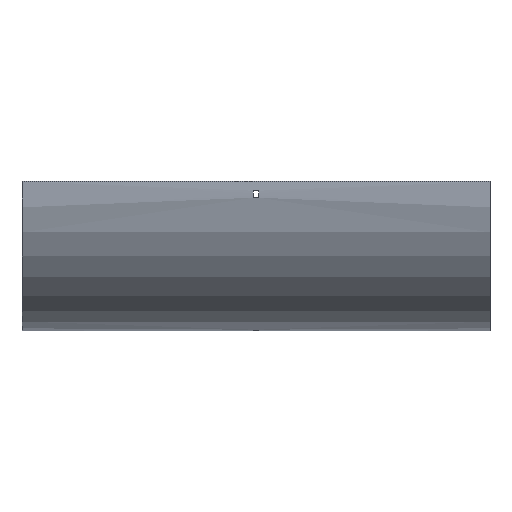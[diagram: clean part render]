
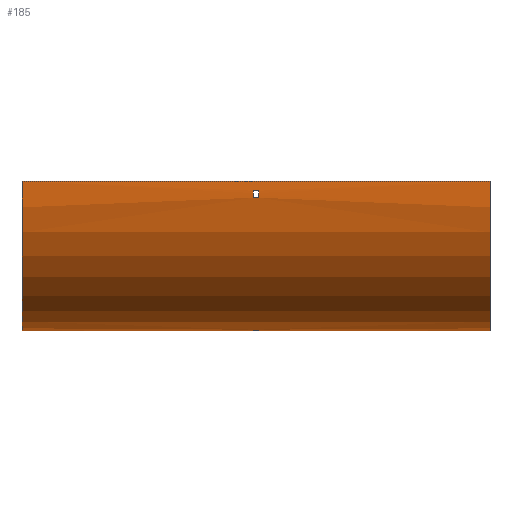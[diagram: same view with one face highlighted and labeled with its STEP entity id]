
A CAD part, front view. The second image highlights one B-rep face of the part: STEP entity #185.
In plain terms, the highlighted cylindrical face has radius 192.5 mm (diameter 385 mm), a partial arc.
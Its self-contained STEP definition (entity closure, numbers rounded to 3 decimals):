
#11 = ORIENTED_EDGE ( 'NONE', *, *, #113, .F. ) ;
#25 = AXIS2_PLACEMENT_3D ( 'NONE', #1170, #459, #1282 ) ;
#34 = CARTESIAN_POINT ( 'NONE',  ( -3.25, -91.351, -21. ) ) ;
#36 = CARTESIAN_POINT ( 'NONE',  ( 302., 88., -192.126 ) ) ;
#38 = EDGE_CURVE ( 'NONE', #781, #621, #904, .T. ) ;
#42 = EDGE_CURVE ( 'NONE', #1136, #1052, #685, .T. ) ;
#52 = DIRECTION ( 'NONE',  ( -1., 0., 0. ) ) ;
#59 = EDGE_CURVE ( 'NONE', #516, #1400, #571, .T. ) ;
#65 = FACE_BOUND ( 'NONE', #810, .T. ) ;
#113 = EDGE_CURVE ( 'NONE', #418, #260, #823, .T. ) ;
#124 = DIRECTION ( 'NONE',  ( -1., 0., 0. ) ) ;
#143 = CARTESIAN_POINT ( 'NONE',  ( 3.25, 79., -191.351 ) ) ;
#152 = AXIS2_PLACEMENT_3D ( 'NONE', #444, #561, #291 ) ;
#177 = CIRCLE ( 'NONE', #25, 192.5 ) ;
#185 = ADVANCED_FACE ( 'NONE', ( #1232, #861, #65 ), #1117, .T. ) ;
#197 = EDGE_CURVE ( 'NONE', #508, #402, #483, .T. ) ;
#240 = CARTESIAN_POINT ( 'NONE',  ( 302., -91.351, -21. ) ) ;
#260 = VERTEX_POINT ( 'NONE', #329 ) ;
#291 = DIRECTION ( 'NONE',  ( 0., 0., 1. ) ) ;
#326 = AXIS2_PLACEMENT_3D ( 'NONE', #1337, #862, #446 ) ;
#329 = CARTESIAN_POINT ( 'NONE',  ( -3.25, 79., -191.351 ) ) ;
#349 = EDGE_LOOP ( 'NONE', ( #887, #559, #745, #447 ) ) ;
#355 = DIRECTION ( 'NONE',  ( -1., 0., 0. ) ) ;
#395 = CARTESIAN_POINT ( 'NONE',  ( 3.25, 100., 0. ) ) ;
#402 = VERTEX_POINT ( 'NONE', #528 ) ;
#410 = CIRCLE ( 'NONE', #326, 192.5 ) ;
#418 = VERTEX_POINT ( 'NONE', #143 ) ;
#436 = CARTESIAN_POINT ( 'NONE',  ( 302., 100., -192.5 ) ) ;
#444 = CARTESIAN_POINT ( 'NONE',  ( -3.25, 100., 0. ) ) ;
#446 = DIRECTION ( 'NONE',  ( 0., 1., 0. ) ) ;
#447 = ORIENTED_EDGE ( 'NONE', *, *, #38, .T. ) ;
#459 = DIRECTION ( 'NONE',  ( 1., 0., 0. ) ) ;
#483 = LINE ( 'NONE', #1247, #962 ) ;
#508 = VERTEX_POINT ( 'NONE', #1334 ) ;
#516 = VERTEX_POINT ( 'NONE', #34 ) ;
#528 = CARTESIAN_POINT ( 'NONE',  ( -302., -92.5, 0. ) ) ;
#559 = ORIENTED_EDGE ( 'NONE', *, *, #59, .T. ) ;
#561 = DIRECTION ( 'NONE',  ( -1., 0., 0. ) ) ;
#571 = CIRCLE ( 'NONE', #152, 192.5 ) ;
#610 = ORIENTED_EDGE ( 'NONE', *, *, #1106, .F. ) ;
#621 = VERTEX_POINT ( 'NONE', #625 ) ;
#625 = CARTESIAN_POINT ( 'NONE',  ( 3.25, -91.351, -21. ) ) ;
#637 = DIRECTION ( 'NONE',  ( 0., 0., 1. ) ) ;
#673 = EDGE_CURVE ( 'NONE', #1400, #781, #1554, .T. ) ;
#684 = EDGE_CURVE ( 'NONE', #1052, #418, #829, .T. ) ;
#685 = LINE ( 'NONE', #36, #1470 ) ;
#699 = CARTESIAN_POINT ( 'NONE',  ( 302., 100., -192.5 ) ) ;
#704 = EDGE_CURVE ( 'NONE', #621, #516, #1034, .T. ) ;
#724 = CARTESIAN_POINT ( 'NONE',  ( -302., 100., -192.5 ) ) ;
#745 = ORIENTED_EDGE ( 'NONE', *, *, #673, .T. ) ;
#774 = CIRCLE ( 'NONE', #935, 192.5 ) ;
#781 = VERTEX_POINT ( 'NONE', #804 ) ;
#804 = CARTESIAN_POINT ( 'NONE',  ( 3.25, -92.126, -12. ) ) ;
#810 = EDGE_LOOP ( 'NONE', ( #1552, #11, #1677, #1401 ) ) ;
#817 = DIRECTION ( 'NONE',  ( 1., 0., 0. ) ) ;
#823 = LINE ( 'NONE', #1597, #826 ) ;
#826 = VECTOR ( 'NONE', #1217, 1000. ) ;
#829 = CIRCLE ( 'NONE', #1354, 192.5 ) ;
#854 = VECTOR ( 'NONE', #1388, 1000. ) ;
#861 = FACE_BOUND ( 'NONE', #349, .T. ) ;
#862 = DIRECTION ( 'NONE',  ( 1., 0., 0. ) ) ;
#887 = ORIENTED_EDGE ( 'NONE', *, *, #704, .T. ) ;
#904 = CIRCLE ( 'NONE', #1580, 192.5 ) ;
#935 = AXIS2_PLACEMENT_3D ( 'NONE', #1210, #971, #1368 ) ;
#936 = CARTESIAN_POINT ( 'NONE',  ( -3.25, 88., -192.126 ) ) ;
#962 = VECTOR ( 'NONE', #1624, 1000. ) ;
#971 = DIRECTION ( 'NONE',  ( 1., 0., 0. ) ) ;
#1034 = LINE ( 'NONE', #240, #1203 ) ;
#1035 = ORIENTED_EDGE ( 'NONE', *, *, #197, .T. ) ;
#1052 = VERTEX_POINT ( 'NONE', #1619 ) ;
#1074 = ORIENTED_EDGE ( 'NONE', *, *, #1564, .F. ) ;
#1085 = EDGE_CURVE ( 'NONE', #260, #1136, #410, .T. ) ;
#1090 = EDGE_CURVE ( 'NONE', #402, #1614, #774, .T. ) ;
#1093 = LINE ( 'NONE', #436, #1349 ) ;
#1106 = EDGE_CURVE ( 'NONE', #1688, #1614, #1093, .T. ) ;
#1117 = CYLINDRICAL_SURFACE ( 'NONE', #1297, 192.5 ) ;
#1128 = EDGE_LOOP ( 'NONE', ( #1330, #610, #1074, #1035 ) ) ;
#1136 = VERTEX_POINT ( 'NONE', #936 ) ;
#1170 = CARTESIAN_POINT ( 'NONE',  ( 302., 100., 0. ) ) ;
#1199 = DIRECTION ( 'NONE',  ( 1., 0., 0. ) ) ;
#1203 = VECTOR ( 'NONE', #124, 1000. ) ;
#1210 = CARTESIAN_POINT ( 'NONE',  ( -302., 100., 0. ) ) ;
#1217 = DIRECTION ( 'NONE',  ( -1., 0., 0. ) ) ;
#1232 = FACE_OUTER_BOUND ( 'NONE', #1128, .T. ) ;
#1247 = CARTESIAN_POINT ( 'NONE',  ( 302., -92.5, 0. ) ) ;
#1260 = CARTESIAN_POINT ( 'NONE',  ( 302., 100., 0. ) ) ;
#1282 = DIRECTION ( 'NONE',  ( 0., 0., -1. ) ) ;
#1297 = AXIS2_PLACEMENT_3D ( 'NONE', #1260, #1365, #1511 ) ;
#1318 = DIRECTION ( 'NONE',  ( 0., 0., -1. ) ) ;
#1330 = ORIENTED_EDGE ( 'NONE', *, *, #1090, .T. ) ;
#1334 = CARTESIAN_POINT ( 'NONE',  ( 302., -92.5, 0. ) ) ;
#1337 = CARTESIAN_POINT ( 'NONE',  ( -3.25, 100., 0. ) ) ;
#1349 = VECTOR ( 'NONE', #52, 1000. ) ;
#1354 = AXIS2_PLACEMENT_3D ( 'NONE', #395, #355, #637 ) ;
#1365 = DIRECTION ( 'NONE',  ( -1., 0., 0. ) ) ;
#1368 = DIRECTION ( 'NONE',  ( 0., 0., -1. ) ) ;
#1388 = DIRECTION ( 'NONE',  ( 1., 0., 0. ) ) ;
#1400 = VERTEX_POINT ( 'NONE', #1449 ) ;
#1401 = ORIENTED_EDGE ( 'NONE', *, *, #42, .F. ) ;
#1449 = CARTESIAN_POINT ( 'NONE',  ( -3.25, -92.126, -12. ) ) ;
#1470 = VECTOR ( 'NONE', #1199, 1000. ) ;
#1511 = DIRECTION ( 'NONE',  ( 0., 0., 1. ) ) ;
#1526 = CARTESIAN_POINT ( 'NONE',  ( 302., -92.126, -12. ) ) ;
#1552 = ORIENTED_EDGE ( 'NONE', *, *, #1085, .F. ) ;
#1554 = LINE ( 'NONE', #1526, #854 ) ;
#1564 = EDGE_CURVE ( 'NONE', #508, #1688, #177, .T. ) ;
#1580 = AXIS2_PLACEMENT_3D ( 'NONE', #1606, #817, #1318 ) ;
#1597 = CARTESIAN_POINT ( 'NONE',  ( 302., 79., -191.351 ) ) ;
#1606 = CARTESIAN_POINT ( 'NONE',  ( 3.25, 100., 0. ) ) ;
#1614 = VERTEX_POINT ( 'NONE', #724 ) ;
#1619 = CARTESIAN_POINT ( 'NONE',  ( 3.25, 88., -192.126 ) ) ;
#1624 = DIRECTION ( 'NONE',  ( -1., 0., 0. ) ) ;
#1677 = ORIENTED_EDGE ( 'NONE', *, *, #684, .F. ) ;
#1688 = VERTEX_POINT ( 'NONE', #699 ) ;
